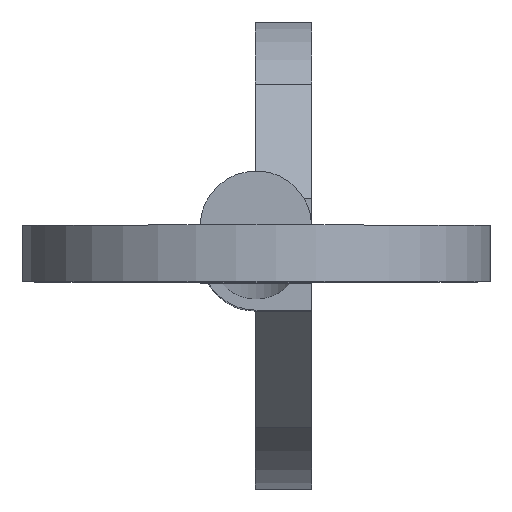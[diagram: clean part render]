
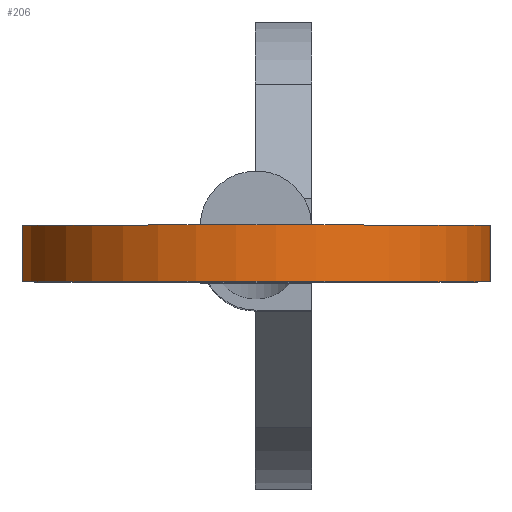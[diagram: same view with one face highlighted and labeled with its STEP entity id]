
A CAD part, top view. The second image highlights one B-rep face of the part: STEP entity #206.
In plain terms, the highlighted cylindrical face has radius 4.19 mm (diameter 8.38 mm), a partial arc.
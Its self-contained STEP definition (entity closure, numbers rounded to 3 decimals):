
#12 = VERTEX_POINT ( 'NONE', #359 ) ;
#18 = CARTESIAN_POINT ( 'NONE',  ( 3.066, 0.015, 149.545 ) ) ;
#41 = AXIS2_PLACEMENT_3D ( 'NONE', #88, #401, #204 ) ;
#82 = DIRECTION ( 'NONE',  ( 0., 0., -1. ) ) ;
#85 = ORIENTED_EDGE ( 'NONE', *, *, #836, .F. ) ;
#88 = CARTESIAN_POINT ( 'NONE',  ( 0., 0.015, 152.4 ) ) ;
#139 = CYLINDRICAL_SURFACE ( 'NONE', #451, 4.19 ) ;
#177 = DIRECTION ( 'NONE',  ( 0., -1., 0. ) ) ;
#204 = DIRECTION ( 'NONE',  ( 0., 0., -1. ) ) ;
#206 = ADVANCED_FACE ( 'NONE', ( #540 ), #139, .T. ) ;
#215 = LINE ( 'NONE', #484, #856 ) ;
#260 = EDGE_LOOP ( 'NONE', ( #522, #85, #442, #407 ) ) ;
#267 = CIRCLE ( 'NONE', #41, 4.19 ) ;
#276 = DIRECTION ( 'NONE',  ( 0., 0., -1. ) ) ;
#280 = DIRECTION ( 'NONE',  ( 0., -1., 0. ) ) ;
#294 = CARTESIAN_POINT ( 'NONE',  ( 0., -0.995, 152.4 ) ) ;
#312 = CARTESIAN_POINT ( 'NONE',  ( -3.066, 0.015, 149.545 ) ) ;
#359 = CARTESIAN_POINT ( 'NONE',  ( -3.066, 0.015, 149.545 ) ) ;
#383 = EDGE_CURVE ( 'NONE', #599, #12, #267, .T. ) ;
#401 = DIRECTION ( 'NONE',  ( 0., -1., 0. ) ) ;
#406 = DIRECTION ( 'NONE',  ( 0., -1., 0. ) ) ;
#407 = ORIENTED_EDGE ( 'NONE', *, *, #722, .T. ) ;
#442 = ORIENTED_EDGE ( 'NONE', *, *, #383, .T. ) ;
#444 = AXIS2_PLACEMENT_3D ( 'NONE', #294, #280, #276 ) ;
#451 = AXIS2_PLACEMENT_3D ( 'NONE', #535, #406, #82 ) ;
#484 = CARTESIAN_POINT ( 'NONE',  ( 3.066, 0.015, 149.545 ) ) ;
#522 = ORIENTED_EDGE ( 'NONE', *, *, #636, .F. ) ;
#535 = CARTESIAN_POINT ( 'NONE',  ( 0., 0.015, 152.4 ) ) ;
#540 = FACE_OUTER_BOUND ( 'NONE', #260, .T. ) ;
#569 = LINE ( 'NONE', #312, #705 ) ;
#599 = VERTEX_POINT ( 'NONE', #18 ) ;
#619 = CIRCLE ( 'NONE', #444, 4.19 ) ;
#636 = EDGE_CURVE ( 'NONE', #777, #765, #619, .T. ) ;
#705 = VECTOR ( 'NONE', #177, 1000. ) ;
#707 = CARTESIAN_POINT ( 'NONE',  ( -3.066, -0.995, 149.545 ) ) ;
#722 = EDGE_CURVE ( 'NONE', #12, #765, #569, .T. ) ;
#735 = DIRECTION ( 'NONE',  ( 0., -1., 0. ) ) ;
#765 = VERTEX_POINT ( 'NONE', #707 ) ;
#777 = VERTEX_POINT ( 'NONE', #783 ) ;
#783 = CARTESIAN_POINT ( 'NONE',  ( 3.066, -0.995, 149.545 ) ) ;
#836 = EDGE_CURVE ( 'NONE', #599, #777, #215, .T. ) ;
#856 = VECTOR ( 'NONE', #735, 1000. ) ;
